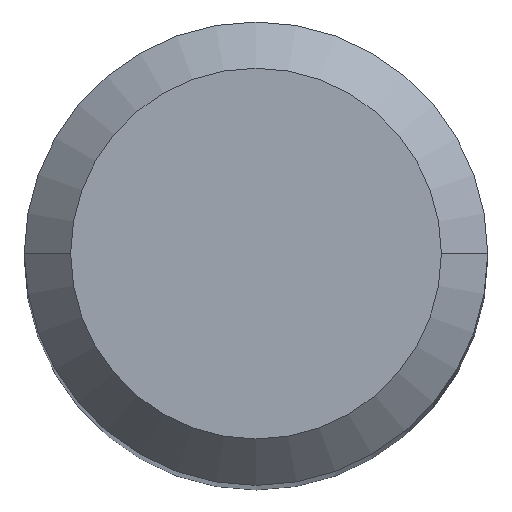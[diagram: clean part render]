
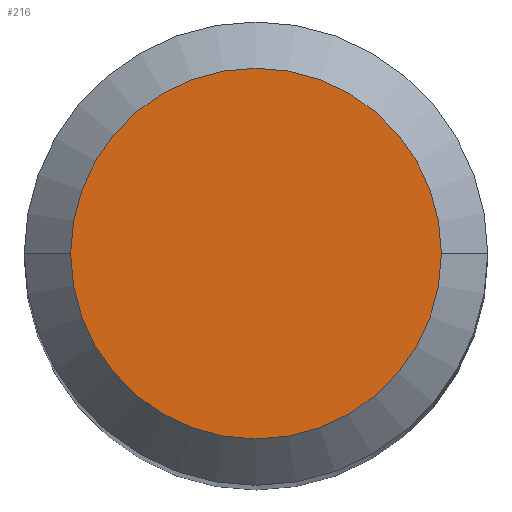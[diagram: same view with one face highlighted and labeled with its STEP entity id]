
A CAD part, top view. The second image highlights one B-rep face of the part: STEP entity #216.
In plain terms, the highlighted planar face has unit normal (0, 0, 1).
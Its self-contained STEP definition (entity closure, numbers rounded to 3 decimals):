
#29 = CARTESIAN_POINT ( 'NONE',  ( 0., 0., 0. ) ) ;
#43 = CARTESIAN_POINT ( 'NONE',  ( 2.4, 0., 0. ) ) ;
#63 = DIRECTION ( 'NONE',  ( -1., 0., 0. ) ) ;
#109 = EDGE_LOOP ( 'NONE', ( #212, #120 ) ) ;
#120 = ORIENTED_EDGE ( 'NONE', *, *, #522, .F. ) ;
#158 = CARTESIAN_POINT ( 'NONE',  ( 0., 0., 0. ) ) ;
#172 = VERTEX_POINT ( 'NONE', #43 ) ;
#178 = AXIS2_PLACEMENT_3D ( 'NONE', #431, #222, #188 ) ;
#188 = DIRECTION ( 'NONE',  ( 1., 0., 0. ) ) ;
#206 = AXIS2_PLACEMENT_3D ( 'NONE', #158, #324, #232 ) ;
#212 = ORIENTED_EDGE ( 'NONE', *, *, #517, .F. ) ;
#216 = ADVANCED_FACE ( 'NONE', ( #427 ), #437, .T. ) ;
#222 = DIRECTION ( 'NONE',  ( 0., 0., 1. ) ) ;
#232 = DIRECTION ( 'NONE',  ( -1., 0., 0. ) ) ;
#279 = DIRECTION ( 'NONE',  ( 0., 0., -1. ) ) ;
#303 = CIRCLE ( 'NONE', #540, 2.4 ) ;
#324 = DIRECTION ( 'NONE',  ( 0., 0., -1. ) ) ;
#379 = VERTEX_POINT ( 'NONE', #434 ) ;
#405 = CIRCLE ( 'NONE', #206, 2.4 ) ;
#427 = FACE_OUTER_BOUND ( 'NONE', #109, .T. ) ;
#431 = CARTESIAN_POINT ( 'NONE',  ( 0., 2.4, 0. ) ) ;
#434 = CARTESIAN_POINT ( 'NONE',  ( -2.4, 0., 0. ) ) ;
#437 = PLANE ( 'NONE',  #178 ) ;
#517 = EDGE_CURVE ( 'NONE', #379, #172, #405, .T. ) ;
#522 = EDGE_CURVE ( 'NONE', #172, #379, #303, .T. ) ;
#540 = AXIS2_PLACEMENT_3D ( 'NONE', #29, #279, #63 ) ;
